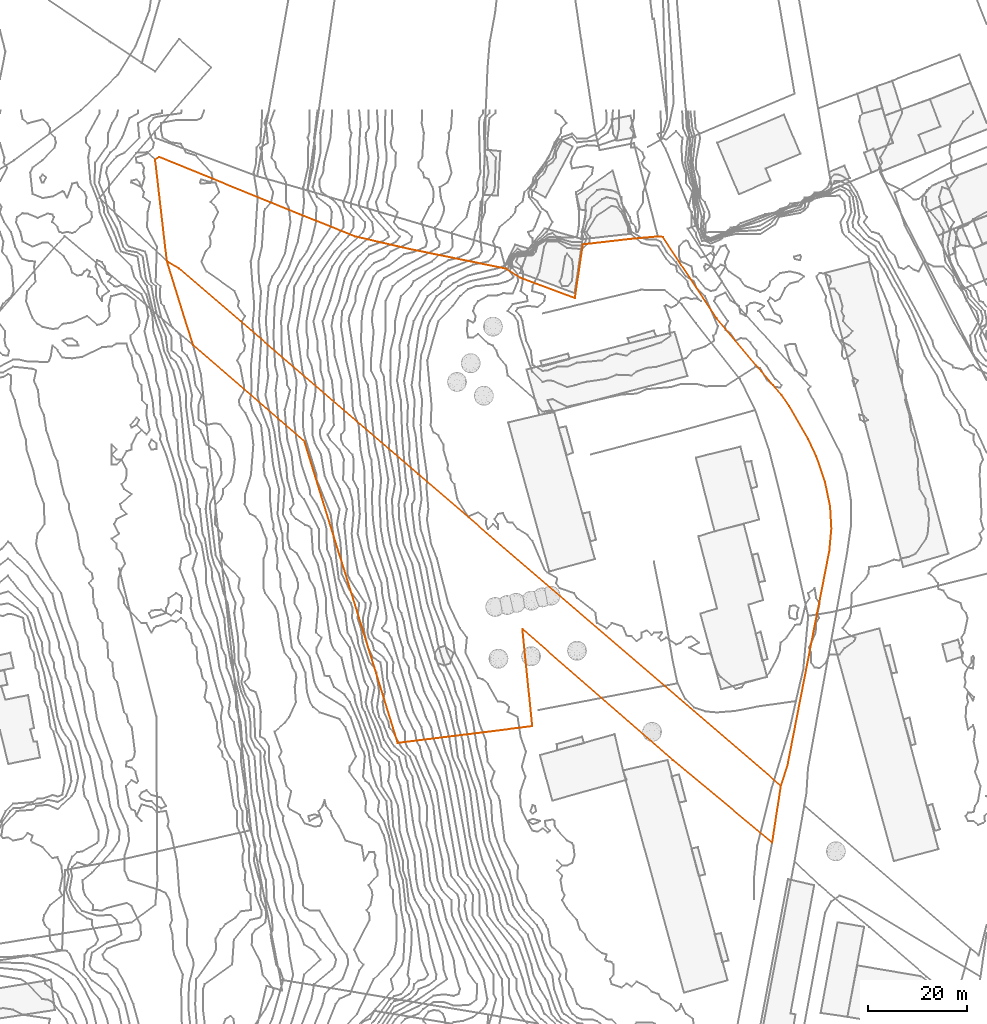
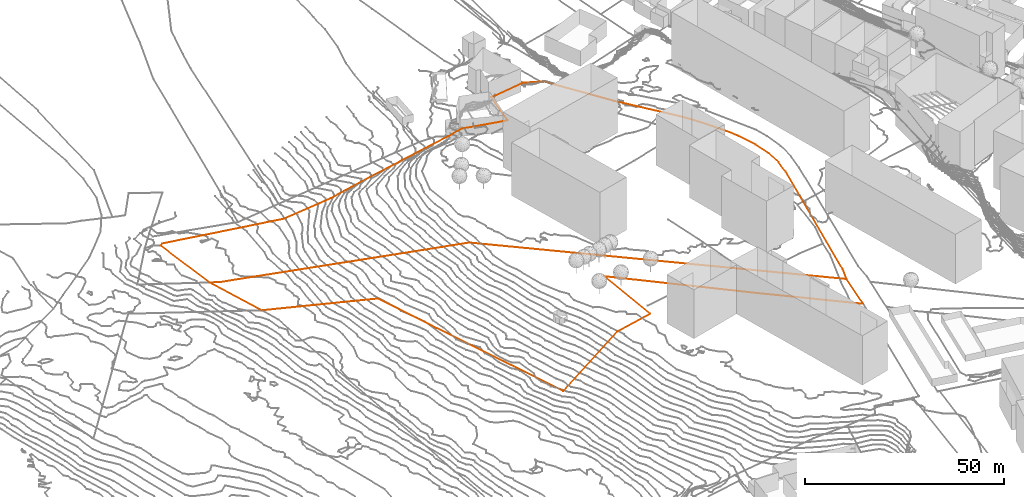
# Not in any storey, part 342 of 419: 2 proxies.
"""IFC2X3 model written with IfcOpenShell, lengths in metres."""

import ifcopenshell
import ifcopenshell.guid

model = None  # the IFC model being written
_history = None  # IfcOwnerHistory: only IFC2X3 demands one
_inside = {}  # id of a spatial element -> (the spatial element, [elements in it])
_under = {}  # id of a project, library or spatial element -> (it, [spatial elements below it])
_declared = {}  # id of a project -> (the project, [libraries it declares])
_typed = {}  # id of a type object -> (the type object, [elements of that type])
_made_of = {}  # id of a material, layer set ... -> (it, [elements and type objects made of it])


def new_model(schema):
    """Start an empty IFC model of exactly this schema.

    Asked for "IFC4X3", IfcOpenShell would pick the latest addendum, in which some entities
    have other attributes; the version numbers below select the first issue.
    IFC2X3 requires an IfcOwnerHistory on every rooted entity: one is made here for all.
    """
    global model, _history
    if schema == "IFC4X3":
        model = ifcopenshell.file(schema_version=(4, 3, 0, 0))
    else:
        model = ifcopenshell.file(schema=schema)
    _inside.clear()
    _under.clear()
    _declared.clear()
    _typed.clear()
    _made_of.clear()
    _history = None
    if model.schema == "IFC2X3":
        org = make("IfcOrganization", Name="unknown")
        user = make(
            "IfcPersonAndOrganization",
            ThePerson=make("IfcPerson", FamilyName="unknown"),
            TheOrganization=org,
        )
        app = make(
            "IfcApplication",
            ApplicationDeveloper=org,
            Version="unknown",
            ApplicationFullName="unknown",
            ApplicationIdentifier="unknown",
        )
        _history = make(
            "IfcOwnerHistory",
            OwningUser=user,
            OwningApplication=app,
            ChangeAction="ADDED",
            CreationDate=0,
        )
    return model


def make(cls, **values):
    """One entity of the class cls with the attributes given. An attribute that is None is left unset."""
    return model.create_entity(
        cls, **{name: value for name, value in values.items() if value is not None}
    )


def entity(cls, *values):
    """Any entity or typed value of the class cls, its attributes in the order of the schema. None: left unset."""
    e = model.create_entity(cls)
    for i, value in enumerate(values):
        if value is not None:
            e[i] = value
    return e


def rooted(cls, **values):
    """An entity with a GlobalId (a new one), such as an element, a storey or a relation."""
    return make(cls, GlobalId=ifcopenshell.guid.new(), OwnerHistory=_history, **values)


def si_unit(unit_type, name, prefix=None):
    """IfcSIUnit, for example si_unit("LENGTHUNIT", "METRE", prefix="MILLI")."""
    return make("IfcSIUnit", UnitType=unit_type, Prefix=prefix, Name=name)


def assignment(units):
    """IfcUnitAssignment: the units of a project."""
    return None if units is None else make("IfcUnitAssignment", Units=units)


def point(xyz):
    """IfcCartesianPoint."""
    return None if xyz is None else make("IfcCartesianPoint", Coordinates=xyz)


def direction(xyz):
    """IfcDirection."""
    return None if xyz is None else make("IfcDirection", DirectionRatios=xyz)


def frame(location, z_axis=None, x_axis=None):
    """IfcAxis2Placement3D, a coordinate frame: its origin and axes. An axis left out is left unset."""
    return make(
        "IfcAxis2Placement3D",
        Location=point(location),
        Axis=direction(z_axis),
        RefDirection=direction(x_axis),
    )


def origin_with_axes():
    """The frame at (0, 0, 0) with the z axis (0, 0, 1) and the x axis (1, 0, 0) written out."""
    return frame((0.0, 0.0, 0.0), z_axis=(0.0, 0.0, 1.0), x_axis=(1.0, 0.0, 0.0))


def place(relative_to, where):
    """IfcLocalPlacement: puts the frame where relative to a parent placement (None: the world)."""
    return make(
        "IfcLocalPlacement", PlacementRelTo=relative_to, RelativePlacement=where
    )


def context(
    kind, dimensions, precision=None, world=None, true_north=None, identifier=None
):
    """IfcGeometricRepresentationContext, for example the 3D "Model" context."""
    return make(
        "IfcGeometricRepresentationContext",
        ContextIdentifier=identifier,
        ContextType=kind,
        CoordinateSpaceDimension=dimensions,
        Precision=precision,
        WorldCoordinateSystem=world,
        TrueNorth=true_north,
    )


def subcontext(parent, identifier, kind, view, scale=None):
    """IfcGeometricRepresentationSubContext, for example "Body" below "Model"."""
    return make(
        "IfcGeometricRepresentationSubContext",
        ContextIdentifier=identifier,
        ContextType=kind,
        ParentContext=parent,
        TargetScale=scale,
        TargetView=view,
    )


def project(units=None, contexts=None):
    """IfcProject with its units and contexts."""
    return rooted(
        "IfcProject",
        Name="project",
        RepresentationContexts=contexts,
        UnitsInContext=assignment(units),
    )


def shape(context_of_items, identifier, shape_type, items):
    """IfcShapeRepresentation: the items that make up one representation, for example the "Body"."""
    return make(
        "IfcShapeRepresentation",
        ContextOfItems=context_of_items,
        RepresentationIdentifier=identifier,
        RepresentationType=shape_type,
        Items=items,
    )


def made_of(thing, what):
    """Note that an element or type object is made of a material, layer set ...; save() writes the relation."""
    if what is not None:
        _made_of.setdefault(what.id(), (what, []))[1].append(thing)
    return thing


def element(
    cls,
    number,
    at=None,
    inside=None,
    cuts=None,
    type_object=None,
    material=None,
    context=None,
    identifier="Body",
    shape_type=None,
    held_by="IfcProductDefinitionShape",
    body=None,
    shapes=None,
    **own,
):
    """One element of the class cls, such as IfcWall. Its Tag is "e" and its number.

    at: its placement. inside: the storey or other place that contains it. cuts: it is an
    opening in that element (IfcRelVoidsElement). A single representation is given by context,
    identifier, shape_type and body (its items); several are given by shapes. held_by: the class
    of the entity that holds the representations. save() writes the other relations.
    """
    e = rooted(cls, Tag="e%d" % number, ObjectPlacement=at, **own)
    if body is not None:
        shapes = [shape(context, identifier, shape_type, body)]
    if shapes is not None:
        e.Representation = make(held_by, Representations=shapes)
    if inside is not None:
        _inside.setdefault(inside.id(), (inside, []))[1].append(e)
    if cuts is not None:
        rooted(
            "IfcRelVoidsElement", RelatingBuildingElement=cuts, RelatedOpeningElement=e
        )
    if type_object is not None:
        _typed.setdefault(type_object.id(), (type_object, []))[1].append(e)
    return made_of(e, material)


def aggregate(whole, parts):
    """IfcRelAggregates: a whole, such as a stair, and the parts it consists of."""
    return rooted("IfcRelAggregates", RelatingObject=whole, RelatedObjects=parts)


def save(model, path):
    """Write the relations noted so far, then the file.

    IfcRelAggregates (storeys below a building ...), IfcRelContainedInSpatialStructure (elements
    in a storey), IfcRelDefinesByType, IfcRelAssociatesMaterial and IfcRelDeclares: one each for
    every whole, place, type object, material and project.
    """
    for whole, parts in _under.values():
        aggregate(whole, parts)
    for where, things in _inside.values():
        rooted(
            "IfcRelContainedInSpatialStructure",
            RelatedElements=things,
            RelatingStructure=where,
        )
    for kind, things in _typed.values():
        rooted("IfcRelDefinesByType", RelatedObjects=things, RelatingType=kind)
    for what, things in _made_of.values():
        rooted("IfcRelAssociatesMaterial", RelatedObjects=things, RelatingMaterial=what)
    for by, libraries in _declared.values():
        rooted("IfcRelDeclares", RelatingContext=by, RelatedDefinitions=libraries)
    model.write(path)


model = new_model("IFC2X3")

# Units and contexts
model_context = context("Model", 3, precision=1e-05, world=origin_with_axes())
body_context = subcontext(model_context, "Body", "Model", "MODEL_VIEW")
ifc_project = project(units=[si_unit("AREAUNIT", "SQUARE_METRE"), si_unit("LENGTHUNIT", "METRE")], contexts=[model_context])

# Proxies
proxy_1_placement = place(None, frame((746.8320204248, 1022.5476909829, 75.3465010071), z_axis=(0.0, 0.0, 1.0), x_axis=(1.0, 0.0, 0.0)))
element("IfcBuildingElementProxy", 1, at=proxy_1_placement, Name="Cadastre 91", ObjectType="NOTDEFINED", context=body_context, shape_type="GeometricCurveSet", body=[
    entity("IfcGeometricCurveSet", [entity("IfcPolyline", [entity("IfcCartesianPoint", [126.41, -126.5800000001, 22.1820080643]), entity("IfcCartesianPoint", [53.1, -63.5800000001, 20.8608954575]), entity("IfcCartesianPoint", [4.8400000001, -22.0600000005, 0.4862161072]), entity("IfcCartesianPoint", [2.38, -20.5899999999, 0.2651719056]), entity("IfcCartesianPoint", [0.0, 0.0, 0.0]), entity("IfcCartesianPoint", [0.8, 0.4799999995, 0.0555094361]), entity("IfcCartesianPoint", [29.39, -11.1800000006, 4.7017785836]), entity("IfcCartesianPoint", [40.4300000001, -15.5800000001, 9.8096783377]), entity("IfcCartesianPoint", [51.1, -18.0600000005, 14.4824295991]), entity("IfcCartesianPoint", [70.86, -22.1000000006, 22.1923999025]), entity("IfcCartesianPoint", [73.75, -23.9199999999, 24.6117556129]), entity("IfcCartesianPoint", [84.8, -28.0600000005, 25.8094841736]), entity("IfcCartesianPoint", [86.39, -17.1900000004, 25.7655195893]), entity("IfcCartesianPoint", [96.14, -16.0600000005, 26.1340978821]), entity("IfcCartesianPoint", [101.6, -15.5800000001, 24.2363098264]), entity("IfcCartesianPoint", [102.5900000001, -15.6800000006, 23.9316732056]), entity("IfcCartesianPoint", [113.41, -32.0700000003, 24.1903993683]), entity("IfcCartesianPoint", [124.8400000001, -45.6299999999, 23.6418035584]), entity("IfcCartesianPoint", [126.6, -47.6400000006, 23.409183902]), entity("IfcCartesianPoint", [128.13, -49.8500000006, 23.3057695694]), entity("IfcCartesianPoint", [131.9600000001, -56.5100000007, 23.2450186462]), entity("IfcCartesianPoint", [133.5600000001, -59.9100000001, 23.2581381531]), entity("IfcCartesianPoint", [135.36, -65.1699999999, 23.200900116]), entity("IfcCartesianPoint", [136.37, -70.0899999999, 23.1216678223]), entity("IfcCartesianPoint", [136.63, -74.5600000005, 23.0143305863]), entity("IfcCartesianPoint", [136.22, -79.0100000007, 22.8856976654]), entity("IfcCartesianPoint", [127.77, -122.3600000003, 22.1440173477]), entity("IfcCartesianPoint", [126.41, -126.5800000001, 22.1820080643])])]),
])
proxy_2_placement = place(None, frame((749.2120204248, 1001.9576909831, 75.6116729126), z_axis=(0.0, 0.0, 1.0), x_axis=(1.0, 0.0, 0.0)))
element("IfcBuildingElementProxy", 2, at=proxy_2_placement, Name="Cadastre 93", ObjectType="NOTDEFINED", context=body_context, shape_type="GeometricCurveSet", body=[
    entity("IfcGeometricCurveSet", [entity("IfcPolyline", [entity("IfcCartesianPoint", [122.28, -117.46, 21.8855271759]), entity("IfcCartesianPoint", [102.17, -100.7400000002, 21.9455841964]), entity("IfcCartesianPoint", [71.8200000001, -74.3300000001, 21.8625644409]), entity("IfcCartesianPoint", [73.8200000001, -93.9100000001, 21.500105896]), entity("IfcCartesianPoint", [63.54, -95.21, 20.4145464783]), entity("IfcCartesianPoint", [46.65, -97.3000000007, 9.3600281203]), entity("IfcCartesianPoint", [27.8, -36.4300000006, 7.4442137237]), entity("IfcCartesianPoint", [5.3, -16.96, -0.1137532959]), entity("IfcCartesianPoint", [0.0, 0.0, 0.0]), entity("IfcCartesianPoint", [2.4600000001, -1.4700000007, 0.2210442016]), entity("IfcCartesianPoint", [50.72, -42.9900000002, 20.5957235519]), entity("IfcCartesianPoint", [124.03, -105.9900000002, 21.9168361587]), entity("IfcCartesianPoint", [122.28, -117.46, 21.8855271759])])]),
])

save(model, "model.ifc")
